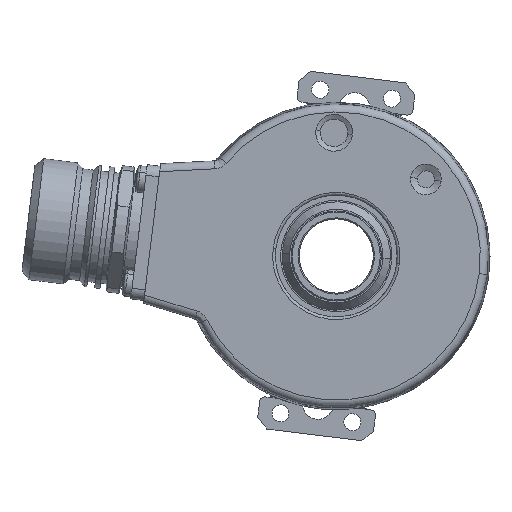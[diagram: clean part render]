
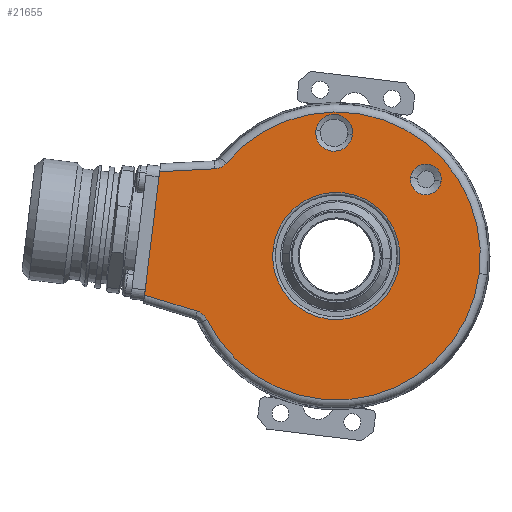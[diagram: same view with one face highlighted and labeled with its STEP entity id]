
A CAD part, left-side view. The second image highlights one B-rep face of the part: STEP entity #21655.
In plain terms, the highlighted planar face has unit normal (-1, 0, 0).
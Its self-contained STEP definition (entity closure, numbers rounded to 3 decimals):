
#8732 = CARTESIAN_POINT ( 'NONE',  ( -19., 0.406, 23.246 ) ) ;
#8785 = CARTESIAN_POINT ( 'NONE',  ( -19., -11.911, -1.462 ) ) ;
#8791 = DIRECTION ( 'NONE',  ( 0., -0.993, -0.122 ) ) ;
#8792 = DIRECTION ( 'NONE',  ( 1., 0., 0. ) ) ;
#8793 = AXIS2_PLACEMENT_3D ( 'NONE', #8732, #8792, #8791 ) ;
#8794 = CIRCLE ( 'NONE', #8793, 3.466 ) ;
#9020 = DIRECTION ( 'NONE',  ( 0., -0.993, -0.122 ) ) ;
#9021 = DIRECTION ( 'NONE',  ( 1., 0., 0. ) ) ;
#9022 = CARTESIAN_POINT ( 'NONE',  ( -19., 0., 0. ) ) ;
#9023 = AXIS2_PLACEMENT_3D ( 'NONE', #9022, #9021, #9020 ) ;
#9028 = CIRCLE ( 'NONE', #9023, 12. ) ;
#9039 = CARTESIAN_POINT ( 'NONE',  ( -19., 11.911, 1.462 ) ) ;
#9162 = CARTESIAN_POINT ( 'NONE',  ( -19., 3.846, 23.669 ) ) ;
#9170 = CARTESIAN_POINT ( 'NONE',  ( -19., -19.796, 14.097 ) ) ;
#9172 = CARTESIAN_POINT ( 'NONE',  ( -19., 20.777, 17.512 ) ) ;
#9173 = CARTESIAN_POINT ( 'NONE',  ( -19., -26.97, -3.312 ) ) ;
#9174 = DIRECTION ( 'NONE',  ( 0., -0.993, -0.122 ) ) ;
#9175 = DIRECTION ( 'NONE',  ( -1., 0., 0. ) ) ;
#9176 = CARTESIAN_POINT ( 'NONE',  ( -19., 0., 0. ) ) ;
#9177 = AXIS2_PLACEMENT_3D ( 'NONE', #9176, #9175, #9174 ) ;
#9178 = CIRCLE ( 'NONE', #9177, 27.173 ) ;
#9244 = CARTESIAN_POINT ( 'NONE',  ( -19., -3.034, 22.824 ) ) ;
#9273 = CARTESIAN_POINT ( 'NONE',  ( -19., -14.042, 14.804 ) ) ;
#9274 = DIRECTION ( 'NONE',  ( 0., -0.993, -0.122 ) ) ;
#9275 = DIRECTION ( 'NONE',  ( 1., 0., 0. ) ) ;
#9276 = CARTESIAN_POINT ( 'NONE',  ( -19., -16.919, 14.45 ) ) ;
#9277 = AXIS2_PLACEMENT_3D ( 'NONE', #9276, #9275, #9274 ) ;
#9278 = CIRCLE ( 'NONE', #9277, 2.899 ) ;
#11226 = CARTESIAN_POINT ( 'NONE',  ( -19., 26.213, -10.418 ) ) ;
#11227 = CARTESIAN_POINT ( 'NONE',  ( -19., 26.016, -10.478 ) ) ;
#11228 = CARTESIAN_POINT ( 'NONE',  ( -19., 25.828, -10.557 ) ) ;
#11229 = CARTESIAN_POINT ( 'NONE',  ( -19., 25.471, -10.753 ) ) ;
#11230 = CARTESIAN_POINT ( 'NONE',  ( -19., 25.3, -10.87 ) ) ;
#11231 = CARTESIAN_POINT ( 'NONE',  ( -19., 24.989, -11.135 ) ) ;
#11232 = CARTESIAN_POINT ( 'NONE',  ( -19., 24.848, -11.282 ) ) ;
#11233 = CARTESIAN_POINT ( 'NONE',  ( -19., 24.597, -11.605 ) ) ;
#11234 = CARTESIAN_POINT ( 'NONE',  ( -19., 24.487, -11.781 ) ) ;
#11235 = CARTESIAN_POINT ( 'NONE',  ( -19., 24.396, -11.966 ) ) ;
#11240 = B_SPLINE_CURVE_WITH_KNOTS ( 'NONE', 3,
 ( #11235, #11234, #11233, #11232, #11231, #11230, #11229, #11228, #11227, #11226 ),
 .UNSPECIFIED., .F., .F.,
 ( 4, 2, 2, 2, 4 ),
 ( 0., 0.001, 0.001, 0.002, 0.002 ),
 .UNSPECIFIED. ) ;
#11247 = CARTESIAN_POINT ( 'NONE',  ( -19., 26.213, -10.418 ) ) ;
#11256 = DIRECTION ( 'NONE',  ( 0., -0.993, -0.122 ) ) ;
#11257 = DIRECTION ( 'NONE',  ( -1., 0., 0. ) ) ;
#11258 = CARTESIAN_POINT ( 'NONE',  ( -19., 0., 0. ) ) ;
#11259 = AXIS2_PLACEMENT_3D ( 'NONE', #11258, #11257, #11256 ) ;
#11260 = CIRCLE ( 'NONE', #11259, 27.173 ) ;
#11350 = CARTESIAN_POINT ( 'NONE',  ( -19., 22.914, 16.45 ) ) ;
#11368 = CARTESIAN_POINT ( 'NONE',  ( -19., 33.31, 15.905 ) ) ;
#11420 = DIRECTION ( 'NONE',  ( 0., -0.956, -0.292 ) ) ;
#11421 = VECTOR ( 'NONE', #11420, 1000. ) ;
#11422 = CARTESIAN_POINT ( 'NONE',  ( -19., 25.556, -10.618 ) ) ;
#11423 = LINE ( 'NONE', #11422, #11421 ) ;
#11657 = DIRECTION ( 'NONE',  ( 0., 0.999, -0.052 ) ) ;
#11658 = VECTOR ( 'NONE', #11657, 1000. ) ;
#11659 = CARTESIAN_POINT ( 'NONE',  ( -19., 33.046, 15.919 ) ) ;
#11660 = LINE ( 'NONE', #11659, #11658 ) ;
#11853 = CARTESIAN_POINT ( 'NONE',  ( -19., 20.777, 17.512 ) ) ;
#11854 = CARTESIAN_POINT ( 'NONE',  ( -19., 20.91, 17.355 ) ) ;
#11855 = CARTESIAN_POINT ( 'NONE',  ( -19., 21.056, 17.213 ) ) ;
#11856 = CARTESIAN_POINT ( 'NONE',  ( -19., 21.376, 16.962 ) ) ;
#11857 = CARTESIAN_POINT ( 'NONE',  ( -19., 21.552, 16.851 ) ) ;
#11858 = CARTESIAN_POINT ( 'NONE',  ( -19., 21.917, 16.669 ) ) ;
#11859 = CARTESIAN_POINT ( 'NONE',  ( -19., 22.108, 16.597 ) ) ;
#11860 = CARTESIAN_POINT ( 'NONE',  ( -19., 22.503, 16.493 ) ) ;
#11861 = CARTESIAN_POINT ( 'NONE',  ( -19., 22.708, 16.461 ) ) ;
#11862 = CARTESIAN_POINT ( 'NONE',  ( -19., 22.914, 16.45 ) ) ;
#11871 = B_SPLINE_CURVE_WITH_KNOTS ( 'NONE', 3,
 ( #11862, #11861, #11860, #11859, #11858, #11857, #11856, #11855, #11854, #11853 ),
 .UNSPECIFIED., .F., .F.,
 ( 4, 2, 2, 2, 4 ),
 ( 0., 0.001, 0.001, 0.002, 0.002 ),
 .UNSPECIFIED. ) ;
#11873 = DIRECTION ( 'NONE',  ( 0., -0.993, -0.122 ) ) ;
#11874 = DIRECTION ( 'NONE',  ( 1., 0., 0. ) ) ;
#11876 = CARTESIAN_POINT ( 'NONE',  ( -19., -16.919, 14.45 ) ) ;
#11877 = AXIS2_PLACEMENT_3D ( 'NONE', #11876, #11874, #11873 ) ;
#11878 = CIRCLE ( 'NONE', #11877, 2.899 ) ;
#11900 = DIRECTION ( 'NONE',  ( 0., -0.993, -0.122 ) ) ;
#11901 = DIRECTION ( 'NONE',  ( 1., 0., 0. ) ) ;
#11902 = CARTESIAN_POINT ( 'NONE',  ( -19., 0., 0. ) ) ;
#11903 = AXIS2_PLACEMENT_3D ( 'NONE', #11902, #11901, #11900 ) ;
#11909 = CIRCLE ( 'NONE', #11903, 12. ) ;
#11949 = CARTESIAN_POINT ( 'NONE',  ( -19., 24.396, -11.966 ) ) ;
#11955 = CARTESIAN_POINT ( 'NONE',  ( -19., 36.168, -7.374 ) ) ;
#11956 = DIRECTION ( 'NONE',  ( 0., -0.122, 0.993 ) ) ;
#11957 = VECTOR ( 'NONE', #11956, 1000. ) ;
#11958 = CARTESIAN_POINT ( 'NONE',  ( -19., 36.354, -8.886 ) ) ;
#11965 = LINE ( 'NONE', #11958, #11957 ) ;
#14477 = FACE_OUTER_BOUND ( 'NONE', #20773, .T. ) ;
#14478 = FACE_BOUND ( 'NONE', #20771, .T. ) ;
#14479 = FACE_BOUND ( 'NONE', #20830, .T. ) ;
#14480 = FACE_BOUND ( 'NONE', #20802, .T. ) ;
#14504 = DIRECTION ( 'NONE',  ( 0., -0.993, -0.122 ) ) ;
#14505 = DIRECTION ( 'NONE',  ( 1., 0., 0. ) ) ;
#14506 = CARTESIAN_POINT ( 'NONE',  ( -19., 0.406, 23.246 ) ) ;
#14507 = AXIS2_PLACEMENT_3D ( 'NONE', #14506, #14505, #14504 ) ;
#14509 = DIRECTION ( 'NONE',  ( 0., -0.993, -0.122 ) ) ;
#14510 = DIRECTION ( 'NONE',  ( 1., 0., 0. ) ) ;
#14511 = CARTESIAN_POINT ( 'NONE',  ( -19., 0., 0. ) ) ;
#14512 = AXIS2_PLACEMENT_3D ( 'NONE', #14511, #14510, #14509 ) ;
#14513 = CIRCLE ( 'NONE', #14507, 3.466 ) ;
#14514 = PLANE ( 'NONE',  #14512 ) ;
#17781 = EDGE_CURVE ( 'NONE', #17895, #17951, #8794, .T. ) ;
#17785 = VERTEX_POINT ( 'NONE', #8785 ) ;
#17860 = EDGE_CURVE ( 'NONE', #17785, #17872, #9028, .T. ) ;
#17872 = VERTEX_POINT ( 'NONE', #9039 ) ;
#17895 = VERTEX_POINT ( 'NONE', #9162 ) ;
#17915 = EDGE_CURVE ( 'NONE', #17918, #17920, #9178, .T. ) ;
#17918 = VERTEX_POINT ( 'NONE', #9173 ) ;
#17920 = VERTEX_POINT ( 'NONE', #9172 ) ;
#17923 = VERTEX_POINT ( 'NONE', #9170 ) ;
#17951 = VERTEX_POINT ( 'NONE', #9244 ) ;
#17965 = EDGE_CURVE ( 'NONE', #17966, #17923, #9278, .T. ) ;
#17966 = VERTEX_POINT ( 'NONE', #9273 ) ;
#20680 = VERTEX_POINT ( 'NONE', #11247 ) ;
#20685 = EDGE_CURVE ( 'NONE', #20795, #20680, #11240, .T. ) ;
#20697 = EDGE_CURVE ( 'NONE', #20795, #17918, #11260, .T. ) ;
#20717 = VERTEX_POINT ( 'NONE', #11350 ) ;
#20719 = VERTEX_POINT ( 'NONE', #11368 ) ;
#20735 = EDGE_CURVE ( 'NONE', #20792, #20680, #11423, .T. ) ;
#20743 = EDGE_CURVE ( 'NONE', #20717, #20719, #11660, .T. ) ;
#20758 = ORIENTED_EDGE ( 'NONE', *, *, #17965, .T. ) ;
#20759 = ORIENTED_EDGE ( 'NONE', *, *, #20760, .T. ) ;
#20760 = EDGE_CURVE ( 'NONE', #17923, #17966, #11878, .T. ) ;
#20762 = EDGE_CURVE ( 'NONE', #20717, #17920, #11871, .T. ) ;
#20764 = ORIENTED_EDGE ( 'NONE', *, *, #20776, .T. ) ;
#20771 = EDGE_LOOP ( 'NONE', ( #20772, #20764 ) ) ;
#20772 = ORIENTED_EDGE ( 'NONE', *, *, #17860, .T. ) ;
#20773 = EDGE_LOOP ( 'NONE', ( #20828, #20829, #20817, #20818, #20820, #20811, #20812 ) ) ;
#20776 = EDGE_CURVE ( 'NONE', #17872, #17785, #11909, .T. ) ;
#20791 = EDGE_CURVE ( 'NONE', #20792, #20719, #11965, .T. ) ;
#20792 = VERTEX_POINT ( 'NONE', #11955 ) ;
#20795 = VERTEX_POINT ( 'NONE', #11949 ) ;
#20802 = EDGE_LOOP ( 'NONE', ( #20758, #20759 ) ) ;
#20811 = ORIENTED_EDGE ( 'NONE', *, *, #20697, .T. ) ;
#20812 = ORIENTED_EDGE ( 'NONE', *, *, #17915, .T. ) ;
#20817 = ORIENTED_EDGE ( 'NONE', *, *, #20791, .F. ) ;
#20818 = ORIENTED_EDGE ( 'NONE', *, *, #20735, .T. ) ;
#20820 = ORIENTED_EDGE ( 'NONE', *, *, #20685, .F. ) ;
#20828 = ORIENTED_EDGE ( 'NONE', *, *, #20762, .F. ) ;
#20829 = ORIENTED_EDGE ( 'NONE', *, *, #20743, .T. ) ;
#20830 = EDGE_LOOP ( 'NONE', ( #20831, #20832 ) ) ;
#20831 = ORIENTED_EDGE ( 'NONE', *, *, #17781, .T. ) ;
#20832 = ORIENTED_EDGE ( 'NONE', *, *, #21656, .T. ) ;
#21655 = ADVANCED_FACE ( 'NONE', ( #14480, #14479, #14478, #14477 ), #14514, .F. ) ;
#21656 = EDGE_CURVE ( 'NONE', #17951, #17895, #14513, .T. ) ;
